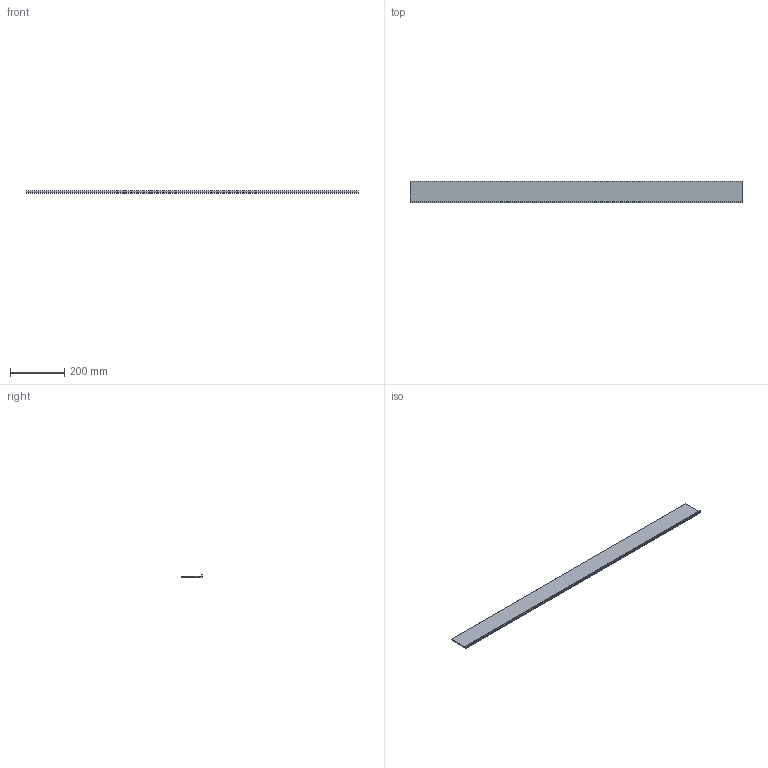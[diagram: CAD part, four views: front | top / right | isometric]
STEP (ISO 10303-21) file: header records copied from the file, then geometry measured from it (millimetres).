
FILE_DESCRIPTION((''),'2;1');
FILE_NAME('GTB04A08','2017-02-03T',('jenni.wallner'),(''),'PRO/ENGINEER BY PARAMETRIC TECHNOLOGY CORPORATION, 2012420','PRO/ENGINEER BY PARAMETRIC TECHNOLOGY CORPORATION, 2012420','');
FILE_SCHEMA(('CONFIG_CONTROL_DESIGN'));
Length unit declared in the file: inch
Products named in the file (1): GTB04A08
Bounding box: 1219.2 x 78.49 x 8.38 mm (x, y, z)
Volume: 302715.7 mm3; surface area: 210453.4 mm2
Topology: 1 solids, 1 shells, 22 faces, 60 edges, 40 vertices
Faces by surface type: plane 12, cylinder 10
Entity records: 749 total; most frequent: CARTESIAN_POINT 139, ORIENTED_EDGE 120, DIRECTION 116, EDGE_CURVE 60, VECTOR 40, LINE 40, VERTEX_POINT 40, AXIS2_PLACEMENT_3D 38
